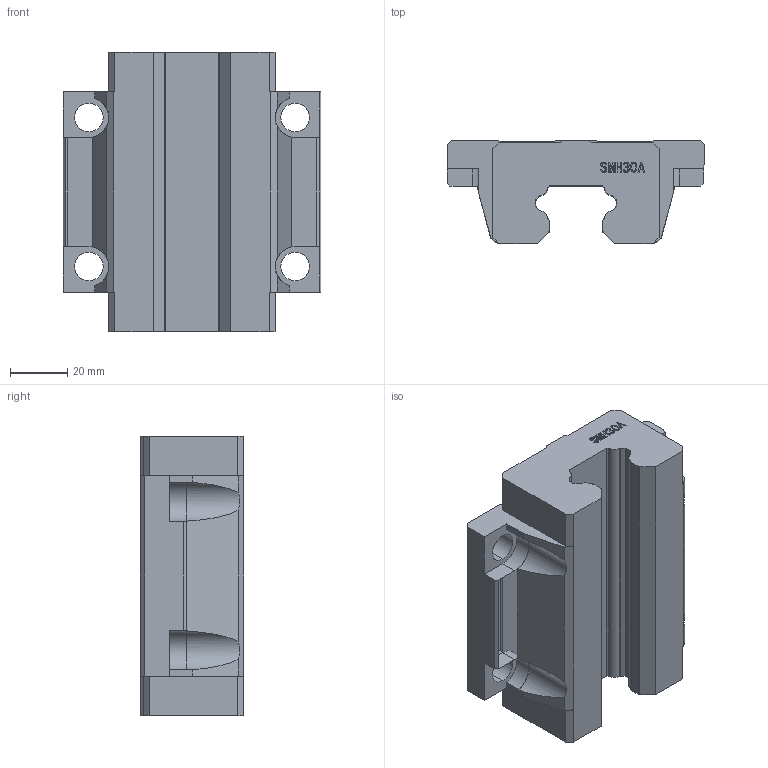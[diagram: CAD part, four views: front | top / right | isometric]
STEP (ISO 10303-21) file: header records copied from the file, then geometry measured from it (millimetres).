
FILE_DESCRIPTION (( 'STEP AP203' ), '1' );
FILE_NAME ('SMH30A.stp', '2019-09-23T01:10:23', ( 'pgos' ), ( '' ), 'SwSTEP 2.0', 'SolidWorks 2014', '' );
FILE_SCHEMA (( 'CONFIG_CONTROL_DESIGN' ));
Length unit declared in the file: millimetre
Products named in the file (1): SMH30A
Bounding box: 90 x 36 x 97.4 mm (x, y, z)
Volume: 189514.8 mm3; surface area: 31678.9 mm2
Topology: 1 solids, 1 shells, 197 faces, 573 edges, 386 vertices
Faces by surface type: plane 141, cylinder 32, bspline 24
Entity records: 8966 total; most frequent: CARTESIAN_POINT 3855, ORIENTED_EDGE 1146, DIRECTION 885, EDGE_CURVE 573, VECTOR 425, LINE 425, VERTEX_POINT 386, AXIS2_PLACEMENT_3D 230
